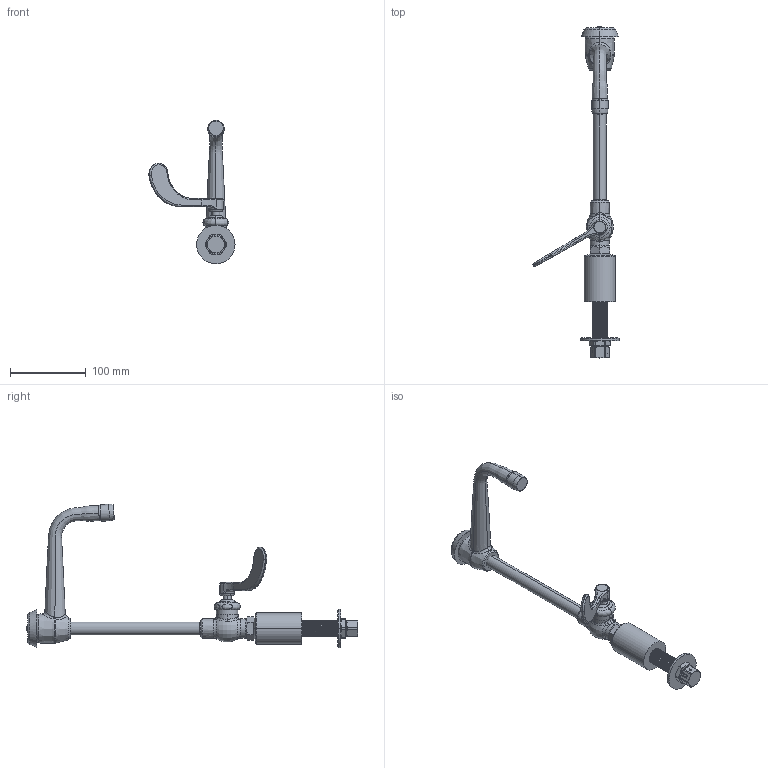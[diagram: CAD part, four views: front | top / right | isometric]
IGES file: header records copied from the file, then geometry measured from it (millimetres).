
Start section:  PTC IGES file: LWS6-B25-G.igs
Global section: file name: LWS6-B25-G.igs; native system: Creo Parametric by PTC Inc.; preprocessor: 2017260; author: usch_engrender; organization: Unknown; date: 20190912.114822; units: inch
Bounding box: 113.79 x 438.33 x 189.44 mm (x, y, z)
Surface area: 81080.5 mm2 (no closed solid volume)
Topology: 0 solids, 27 shells, 325 faces, 887 edges, 584 vertices
Faces by surface type: revolution 244, bspline 81
